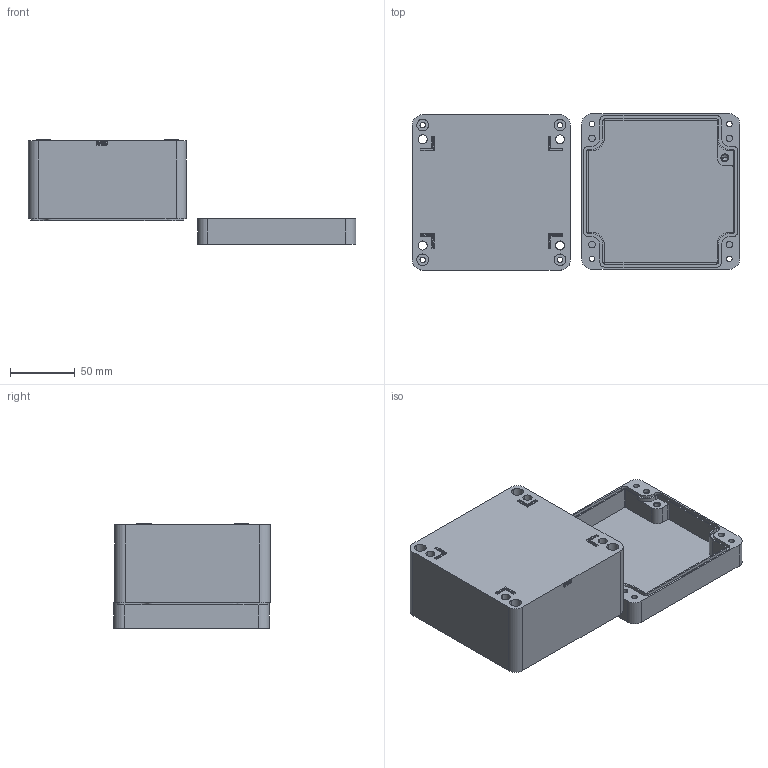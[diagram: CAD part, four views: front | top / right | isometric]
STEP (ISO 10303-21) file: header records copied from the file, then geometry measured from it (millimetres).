
FILE_DESCRIPTION (( 'STEP AP203' ), '1' );
FILE_NAME ('ZX-AL-121208_装配体.STEP', '2022-01-24T08:45:07', ( '微软用户' ), ( '微软中国' ), 'SwSTEP 2.0', 'SolidWorks 2020', '' );
FILE_SCHEMA (( 'CONFIG_CONTROL_DESIGN' ));
Length unit declared in the file: millimetre
Products named in the file (3): ZX-AL-121208_狟; ZX-AL-121208_奻; ZX-AL-121208_蚾饜极
Assembly tree (2 placements, depth 2):
  ZX-AL-121208_蚾饜极
    ZX-AL-121208_狟
    ZX-AL-121208_奻
Bounding box: 252.66 x 120.81 x 81 mm (x, y, z)
Volume: 281665.7 mm3; surface area: 146590.2 mm2
Topology: 2 solids, 2 shells, 673 faces, 1818 edges, 1185 vertices
Faces by surface type: plane 346, cylinder 168, bspline 123, cone 36
Entity records: 26875 total; most frequent: CARTESIAN_POINT 10318, ORIENTED_EDGE 3608, DIRECTION 2954, EDGE_CURVE 1804, LINE 1224, VECTOR 1224, VERTEX_POINT 1185, AXIS2_PLACEMENT_3D 865
